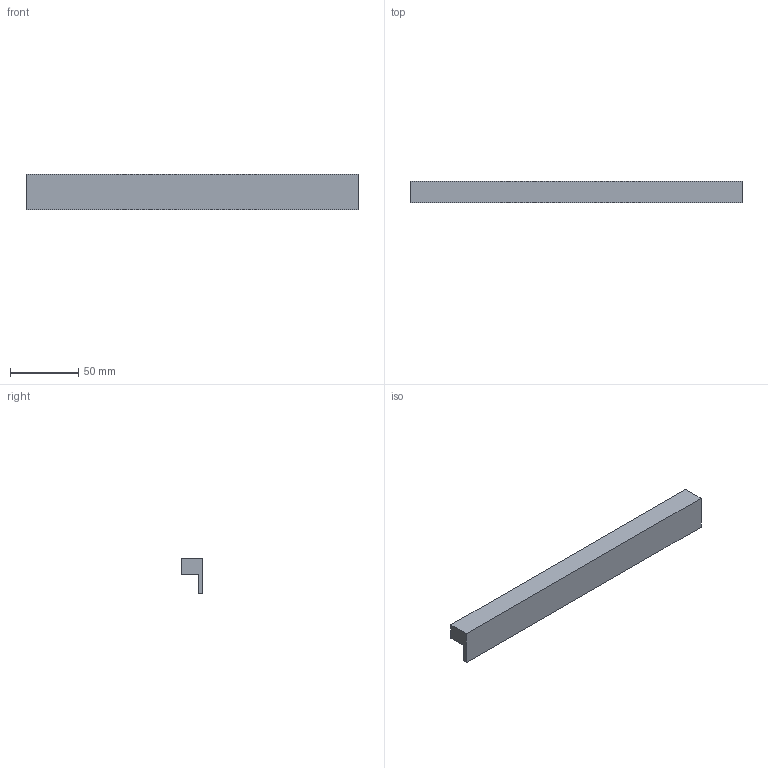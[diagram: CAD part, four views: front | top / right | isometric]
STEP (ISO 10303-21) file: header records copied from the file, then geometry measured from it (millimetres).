
FILE_DESCRIPTION( ( 'STEP AP214' ), '1' );
FILE_NAME( 'D:/Shahbaz D&D/Task/Check and correct handles with 3 drill sockets/Trani/9209006.stp', '2023-02-20T11:30:56', ( '' ), ( '' ), ' ', 'PARTsolutions', ' ' );
FILE_SCHEMA( ( 'AUTOMOTIVE_DESIGN { 1 0 10303 214 1 1 1 1 }' ) );
Length unit declared in the file: millimetre
Products named in the file (1): _9209006
Bounding box: 244 x 16 x 26 mm (x, y, z)
Volume: 56781.8 mm3; surface area: 21215.3 mm2
Topology: 1 solids, 1 shells, 12 faces, 24 edges, 16 vertices
Faces by surface type: plane 10, cylinder 2
Full cylindrical faces by diameter (mm): 5 x2
Entity records: 414 total; most frequent: DIRECTION 52, CARTESIAN_POINT 51, ORIENTED_EDGE 44, EDGE_CURVE 22, LINE 18, VECTOR 18, AXIS2_PLACEMENT_3D 17, EDGE_LOOP 16
